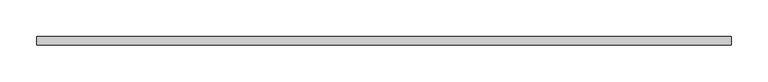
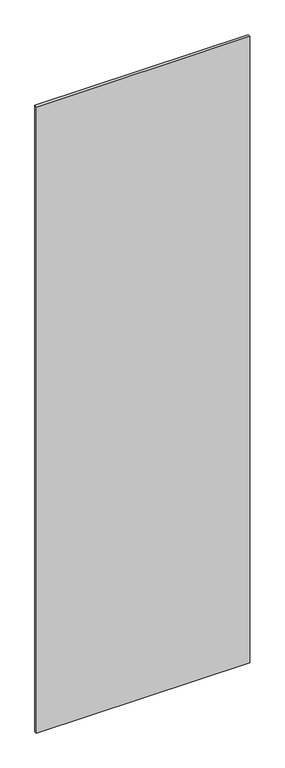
"""IFC4 building model written with IfcOpenShell, lengths in millimetres: plate geometry, VERTI AERO - prosklená výplň : Prosklená výplň."""

from ifc_helpers import new_model, si_unit, origin, origin_with_axes, place, context, project, spatial, polyline, outline, extrude, source, transform, mapped, element, save


def plate_bc139ad8(model_context):
    return source(origin(), model_context, "Body", "SweptSolid", [
        extrude(outline(polyline([(475.0, 6.0), (475.0, -6.0), (-475.0, -6.0), (-475.0, 6.0), (475.0, 6.0)])), origin_with_axes(), (0.0, 0.0, 1.0), 2950.0),
    ])


if __name__ == "__main__":
    model = new_model("IFC4")
    model_context = context("Model", 3, world=origin())
    ifc_project = project(units=[si_unit("LENGTHUNIT", "METRE", prefix="MILLI")], contexts=[model_context])
    site = spatial("IfcSite", under=ifc_project)
    building = spatial("IfcBuilding", under=site)
    placement = place(None, origin())
    plate_shape = plate_bc139ad8(model_context)
    element("IfcPlate", 1, ObjectType="VERTI AERO - prosklená výplň : Prosklená výplň", at=placement, inside=building, context=model_context, shape_type="MappedRepresentation", body=[
        mapped(plate_shape, transform((0.0, 0.0, 0.0), x_axis=(1.0, 0.0, 0.0), y_axis=(0.0, 1.0, 0.0), z_axis=(0.0, 0.0, 1.0))),
    ])
    save(model, "model.ifc")
